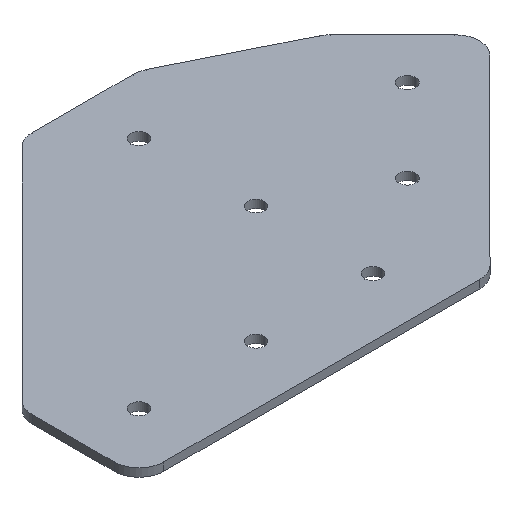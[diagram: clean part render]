
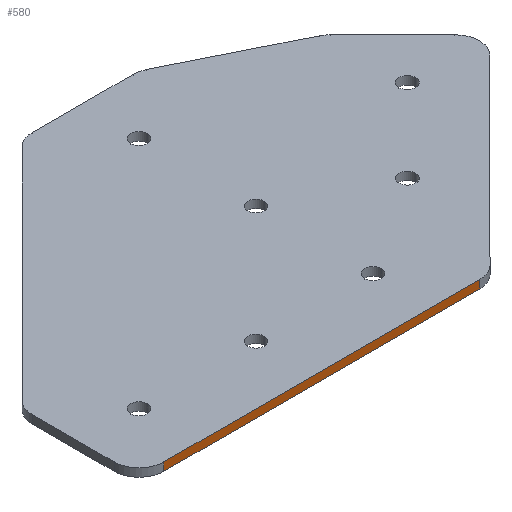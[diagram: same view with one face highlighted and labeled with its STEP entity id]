
A CAD part, isometric view. The second image highlights one B-rep face of the part: STEP entity #580.
In plain terms, the highlighted planar face has unit normal (0, -1, 0).
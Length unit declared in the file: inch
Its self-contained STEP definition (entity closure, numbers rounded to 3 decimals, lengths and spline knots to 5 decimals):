
#12 = VERTEX_POINT ( 'NONE', #251 ) ;
#88 = CARTESIAN_POINT ( 'NONE',  ( 0.19063, 0., 0.0625 ) ) ;
#91 = PLANE ( 'NONE',  #470 ) ;
#115 = DIRECTION ( 'NONE',  ( -1., 0., 0. ) ) ;
#158 = DIRECTION ( 'NONE',  ( 1., 0., 0. ) ) ;
#167 = VECTOR ( 'NONE', #282, 39.37008 ) ;
#201 = VERTEX_POINT ( 'NONE', #448 ) ;
#203 = VERTEX_POINT ( 'NONE', #502 ) ;
#207 = EDGE_CURVE ( 'NONE', #981, #12, #732, .T. ) ;
#232 = VECTOR ( 'NONE', #115, 39.37008 ) ;
#251 = CARTESIAN_POINT ( 'NONE',  ( 2.60604, 0., 0.0625 ) ) ;
#260 = DIRECTION ( 'NONE',  ( 0., 0., 1. ) ) ;
#281 = CARTESIAN_POINT ( 'NONE',  ( 0., 0., 0. ) ) ;
#282 = DIRECTION ( 'NONE',  ( 0., 0., -1. ) ) ;
#356 = CARTESIAN_POINT ( 'NONE',  ( 0.19063, 0., 0.0625 ) ) ;
#414 = CARTESIAN_POINT ( 'NONE',  ( 0., 0., 0.0625 ) ) ;
#434 = FACE_OUTER_BOUND ( 'NONE', #496, .T. ) ;
#448 = CARTESIAN_POINT ( 'NONE',  ( 2.60604, 0., 0. ) ) ;
#470 = AXIS2_PLACEMENT_3D ( 'NONE', #855, #775, #260 ) ;
#472 = LINE ( 'NONE', #88, #660 ) ;
#496 = EDGE_LOOP ( 'NONE', ( #848, #847, #919, #735 ) ) ;
#502 = CARTESIAN_POINT ( 'NONE',  ( 0.19063, 0., 0. ) ) ;
#505 = VECTOR ( 'NONE', #158, 39.37008 ) ;
#536 = EDGE_CURVE ( 'NONE', #201, #203, #911, .T. ) ;
#557 = EDGE_CURVE ( 'NONE', #203, #981, #472, .T. ) ;
#580 = ADVANCED_FACE ( 'NONE', ( #434 ), #91, .F. ) ;
#627 = LINE ( 'NONE', #713, #167 ) ;
#660 = VECTOR ( 'NONE', #771, 39.37008 ) ;
#713 = CARTESIAN_POINT ( 'NONE',  ( 2.60604, 0., 0.0625 ) ) ;
#732 = LINE ( 'NONE', #414, #505 ) ;
#735 = ORIENTED_EDGE ( 'NONE', *, *, #536, .F. ) ;
#771 = DIRECTION ( 'NONE',  ( 0., 0., 1. ) ) ;
#775 = DIRECTION ( 'NONE',  ( 0., 1., 0. ) ) ;
#847 = ORIENTED_EDGE ( 'NONE', *, *, #207, .F. ) ;
#848 = ORIENTED_EDGE ( 'NONE', *, *, #1079, .F. ) ;
#855 = CARTESIAN_POINT ( 'NONE',  ( 0., 0., 0.0625 ) ) ;
#911 = LINE ( 'NONE', #281, #232 ) ;
#919 = ORIENTED_EDGE ( 'NONE', *, *, #557, .F. ) ;
#981 = VERTEX_POINT ( 'NONE', #356 ) ;
#1079 = EDGE_CURVE ( 'NONE', #12, #201, #627, .T. ) ;
